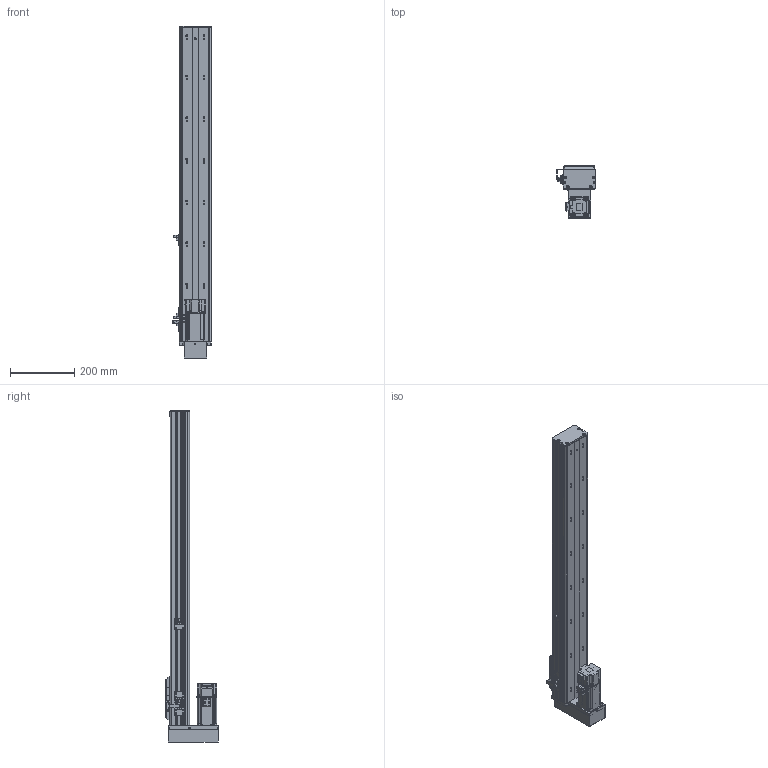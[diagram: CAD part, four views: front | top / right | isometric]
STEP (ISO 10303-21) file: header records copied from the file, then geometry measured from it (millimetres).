
FILE_DESCRIPTION (( 'STEP AP203' ), '1' );
FILE_NAME ('BOSW100-800-1610-1P-DM-M400W-O-S3（方程式2016）.step', '2020-10-10T06:47:23', ( '' ), ( '' ), 'SwSTEP 2.0', 'SolidWorks 2016', '' );
FILE_SCHEMA (( 'CONFIG_CONTROL_DESIGN' ));
Length unit declared in the file: millimetre
Products named in the file (14): BOSW-100-1P-DM-宽轨-钢带-800客户图纸; BOS100-DM鎮湛欶; BOSW100-800-1610-1P-DM-M400W-O-S3（方程式2016）; BOSW-100-綴裔啣; 放大器内置U型微型光电传感器PM-L65; BOSW&TW-100-俋离覜茼え; BOSW&TW-100-1P-賑雄釱欶; S400W(SMA-L040); 新结构AIMSW-100-1P-宽&高轨共用-滑动座上组件; 俋境嫖覜嘐隅啣; BOSW&TW-100-詩湍揤沭(陔賦凳); BOS-100-DM鎮湛假蚾啣; BOSW-100-1P-DM-800諦誧芞; BOSW-100-1P-DM-宽轨-侧板-800客户图纸
Assembly tree (19 placements, depth 2):
  BOSW100-800-1610-1P-DM-M400W-O-S3（方程式2016）
    BOSW-100-1P-DM-800諦誧芞
    BOSW-100-綴裔啣
    新结构AIMSW-100-1P-宽&高轨共用-滑动座上组件
    S400W(SMA-L040)
    BOSW&TW-100-詩湍揤沭(陔賦凳)  x2
    BOSW&TW-100-1P-賑雄釱欶
    BOSW&TW-100-俋离覜茼え
    俋境嫖覜嘐隅啣  x3
    放大器内置U型微型光电传感器PM-L65  x3
    BOSW-100-1P-DM-宽轨-侧板-800客户图纸  x2
    BOSW-100-1P-DM-宽轨-钢带-800客户图纸
    BOS100-DM鎮湛欶
    BOS-100-DM鎮湛假蚾啣
Bounding box: 120.9 x 164 x 1036 mm (x, y, z)
Volume: 2279892.9 mm3; surface area: 1059301.8 mm2
Topology: 19 solids, 19 shells, 2568 faces, 6782 edges, 4337 vertices
Faces by surface type: plane 1269, cylinder 823, bspline 271, cone 157, torus 36, sphere 12
Entity records: 70787 total; most frequent: CARTESIAN_POINT 21100, ORIENTED_EDGE 10120, DIRECTION 9808, EDGE_CURVE 5060, AXIS2_PLACEMENT_3D 3476, VERTEX_POINT 3239, VECTOR 2856, LINE 2856
